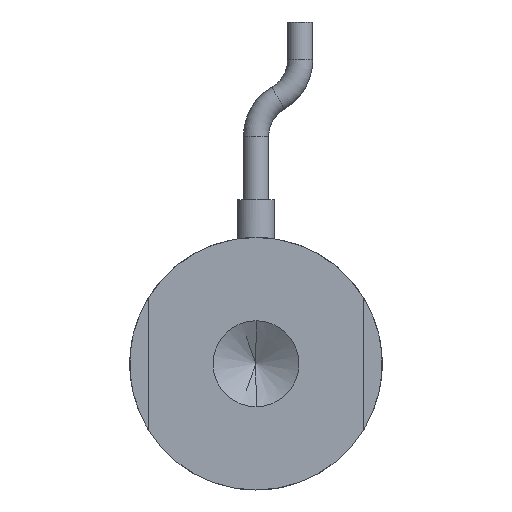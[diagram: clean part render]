
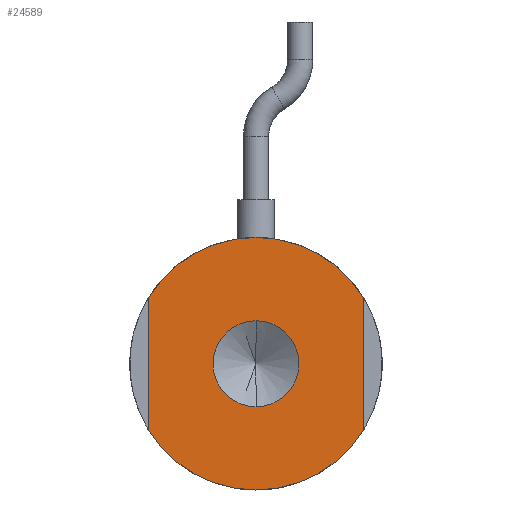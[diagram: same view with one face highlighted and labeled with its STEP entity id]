
A CAD part, front view. The second image highlights one B-rep face of the part: STEP entity #24589.
In plain terms, the highlighted planar face has unit normal (0, -1, 0).
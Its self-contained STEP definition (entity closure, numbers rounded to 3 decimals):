
#99 = DIRECTION ( 'NONE',  ( 0., 0., 1. ) ) ;
#445 = DIRECTION ( 'NONE',  ( 0., -1., 0. ) ) ;
#890 = CARTESIAN_POINT ( 'NONE',  ( 8.5, 0., -5.268 ) ) ;
#1392 = VECTOR ( 'NONE', #37725, 1000. ) ;
#1761 = CARTESIAN_POINT ( 'NONE',  ( 0., 0., 0. ) ) ;
#1866 = ORIENTED_EDGE ( 'NONE', *, *, #32471, .F. ) ;
#2278 = AXIS2_PLACEMENT_3D ( 'NONE', #25327, #4257, #28868 ) ;
#2365 = DIRECTION ( 'NONE',  ( 0., 0., -1. ) ) ;
#4257 = DIRECTION ( 'NONE',  ( 0., 1., 0. ) ) ;
#4388 = VERTEX_POINT ( 'NONE', #45418 ) ;
#5265 = DIRECTION ( 'NONE',  ( 0., 0., 1. ) ) ;
#5491 = CARTESIAN_POINT ( 'NONE',  ( -8.5, 0., -5.268 ) ) ;
#6793 = ORIENTED_EDGE ( 'NONE', *, *, #41323, .F. ) ;
#7270 = CARTESIAN_POINT ( 'NONE',  ( -8.5, 0., 5.268 ) ) ;
#10565 = CIRCLE ( 'NONE', #36027, 10. ) ;
#10873 = EDGE_CURVE ( 'NONE', #32523, #33154, #24644, .T. ) ;
#11253 = DIRECTION ( 'NONE',  ( 0., 0., 1. ) ) ;
#12391 = ORIENTED_EDGE ( 'NONE', *, *, #22812, .F. ) ;
#12968 = CARTESIAN_POINT ( 'NONE',  ( 8.5, 0., 0. ) ) ;
#16628 = FACE_BOUND ( 'NONE', #26769, .T. ) ;
#16736 = CARTESIAN_POINT ( 'NONE',  ( 0., 0., 0. ) ) ;
#16827 = VERTEX_POINT ( 'NONE', #45182 ) ;
#16939 = CIRCLE ( 'NONE', #2278, 10. ) ;
#17145 = ORIENTED_EDGE ( 'NONE', *, *, #10873, .F. ) ;
#18231 = VERTEX_POINT ( 'NONE', #5491 ) ;
#20143 = CARTESIAN_POINT ( 'NONE',  ( 0., 0., -10. ) ) ;
#20293 = DIRECTION ( 'NONE',  ( 0., 0., 1. ) ) ;
#21141 = DIRECTION ( 'NONE',  ( 0., 1., 0. ) ) ;
#21485 = CARTESIAN_POINT ( 'NONE',  ( 0., 0., 0. ) ) ;
#21636 = ORIENTED_EDGE ( 'NONE', *, *, #39743, .F. ) ;
#21694 = CIRCLE ( 'NONE', #30066, 10. ) ;
#22812 = EDGE_CURVE ( 'NONE', #22881, #16827, #34399, .T. ) ;
#22857 = LINE ( 'NONE', #26386, #33357 ) ;
#22881 = VERTEX_POINT ( 'NONE', #32732 ) ;
#23410 = DIRECTION ( 'NONE',  ( 0., -1., 0. ) ) ;
#24194 = ORIENTED_EDGE ( 'NONE', *, *, #40726, .F. ) ;
#24589 = ADVANCED_FACE ( 'NONE', ( #16628, #37687 ), #25197, .F. ) ;
#24644 = CIRCLE ( 'NONE', #45761, 10. ) ;
#25061 = DIRECTION ( 'NONE',  ( 0., 0., -1. ) ) ;
#25197 = PLANE ( 'NONE',  #38948 ) ;
#25327 = CARTESIAN_POINT ( 'NONE',  ( 0., 0., 0. ) ) ;
#26356 = DIRECTION ( 'NONE',  ( 0., 1., 0. ) ) ;
#26386 = CARTESIAN_POINT ( 'NONE',  ( -8.5, 0., 0. ) ) ;
#26769 = EDGE_LOOP ( 'NONE', ( #31538, #12391 ) ) ;
#26980 = EDGE_LOOP ( 'NONE', ( #21636, #1866, #17145, #24194, #36196, #6793 ) ) ;
#27031 = VERTEX_POINT ( 'NONE', #29178 ) ;
#28350 = LINE ( 'NONE', #12968, #1392 ) ;
#28868 = DIRECTION ( 'NONE',  ( 0., 0., 1. ) ) ;
#28879 = CARTESIAN_POINT ( 'NONE',  ( 0., 0., 0. ) ) ;
#29178 = CARTESIAN_POINT ( 'NONE',  ( 8.5, 0., 5.268 ) ) ;
#30066 = AXIS2_PLACEMENT_3D ( 'NONE', #1761, #26356, #5265 ) ;
#31538 = ORIENTED_EDGE ( 'NONE', *, *, #40221, .F. ) ;
#31832 = AXIS2_PLACEMENT_3D ( 'NONE', #44593, #23410, #2365 ) ;
#32085 = AXIS2_PLACEMENT_3D ( 'NONE', #21485, #445, #25061 ) ;
#32422 = DIRECTION ( 'NONE',  ( 0., 1., 0. ) ) ;
#32471 = EDGE_CURVE ( 'NONE', #33154, #18231, #16939, .T. ) ;
#32523 = VERTEX_POINT ( 'NONE', #890 ) ;
#32732 = CARTESIAN_POINT ( 'NONE',  ( 0., 0., 3.4 ) ) ;
#33154 = VERTEX_POINT ( 'NONE', #20143 ) ;
#33357 = VECTOR ( 'NONE', #37040, 1000. ) ;
#34399 = CIRCLE ( 'NONE', #32085, 3.4 ) ;
#35853 = VERTEX_POINT ( 'NONE', #7270 ) ;
#36027 = AXIS2_PLACEMENT_3D ( 'NONE', #42327, #21141, #99 ) ;
#36196 = ORIENTED_EDGE ( 'NONE', *, *, #43965, .F. ) ;
#37040 = DIRECTION ( 'NONE',  ( 0., 0., 1. ) ) ;
#37687 = FACE_OUTER_BOUND ( 'NONE', #26980, .T. ) ;
#37725 = DIRECTION ( 'NONE',  ( 0., 0., -1. ) ) ;
#38948 = AXIS2_PLACEMENT_3D ( 'NONE', #28879, #32422, #11253 ) ;
#39743 = EDGE_CURVE ( 'NONE', #18231, #35853, #22857, .T. ) ;
#40221 = EDGE_CURVE ( 'NONE', #16827, #22881, #45526, .T. ) ;
#40726 = EDGE_CURVE ( 'NONE', #27031, #32523, #28350, .T. ) ;
#41323 = EDGE_CURVE ( 'NONE', #35853, #4388, #21694, .T. ) ;
#41485 = DIRECTION ( 'NONE',  ( 0., 1., 0. ) ) ;
#42327 = CARTESIAN_POINT ( 'NONE',  ( 0., 0., 0. ) ) ;
#43965 = EDGE_CURVE ( 'NONE', #4388, #27031, #10565, .T. ) ;
#44593 = CARTESIAN_POINT ( 'NONE',  ( 0., 0., 0. ) ) ;
#45182 = CARTESIAN_POINT ( 'NONE',  ( 0., 0., -3.4 ) ) ;
#45418 = CARTESIAN_POINT ( 'NONE',  ( 0., 0., 10. ) ) ;
#45526 = CIRCLE ( 'NONE', #31832, 3.4 ) ;
#45761 = AXIS2_PLACEMENT_3D ( 'NONE', #16736, #41485, #20293 ) ;
